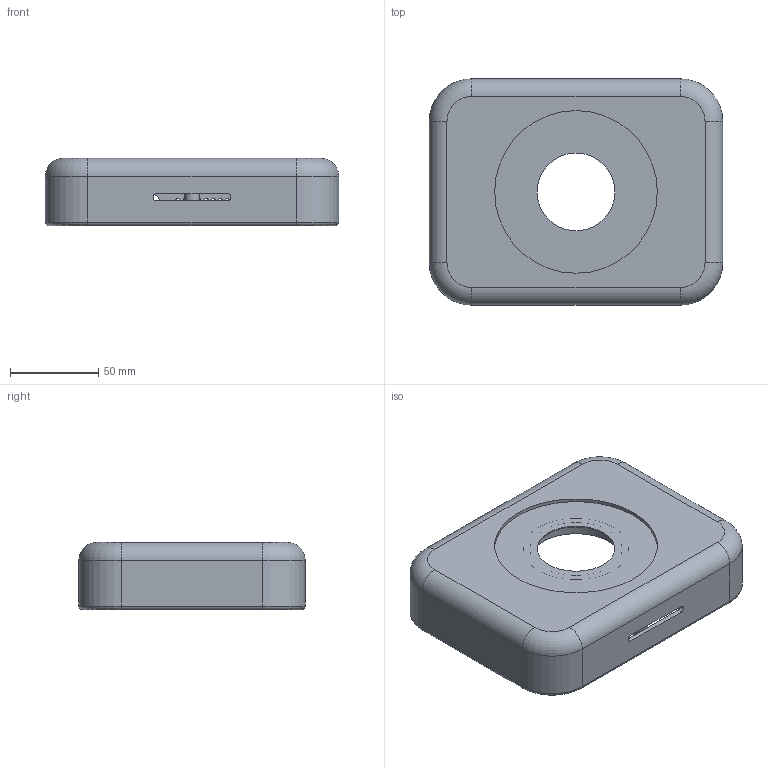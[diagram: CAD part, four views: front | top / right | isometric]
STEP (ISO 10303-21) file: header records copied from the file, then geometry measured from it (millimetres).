
FILE_DESCRIPTION(('Open CASCADE Model'),'2;1');
FILE_NAME('Open CASCADE Shape Model','2026-11-01T16:28:01',('Author'),( 'Open CASCADE'),'Open CASCADE STEP processor 8.0','build123d', 'Unknown');
FILE_SCHEMA(('AUTOMOTIVE_DESIGN { 1 0 10303 214 1 1 1 1 }'));
Length unit declared in the file: millimetre
Products named in the file (1): COMPOUND
Bounding box: 166 x 128 x 38 mm (x, y, z)
Volume: 89202.8 mm3; surface area: 82235.4 mm2
Topology: 2 solids, 2 shells, 132 faces, 336 edges, 216 vertices
Faces by surface type: cylinder 90, plane 30, torus 12
Full cylindrical faces by diameter (mm): 2.5 x45, 4 x5, 7 x1, 8 x5, 44 x1, 52 x1, 60 x1, 92 x1
Entity records: 9983 total; most frequent: CARTESIAN_POINT 3241, DIRECTION 1254, ORIENTED_EDGE 672, PCURVE 672, DEFINITIONAL_REPRESENTATION 672, LINE 573, VECTOR 573, EDGE_CURVE 336
